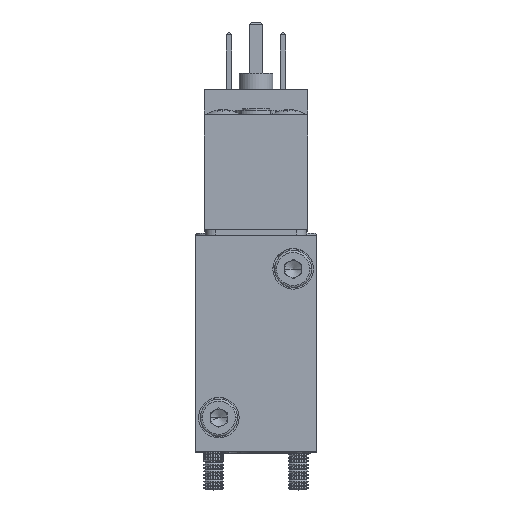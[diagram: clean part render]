
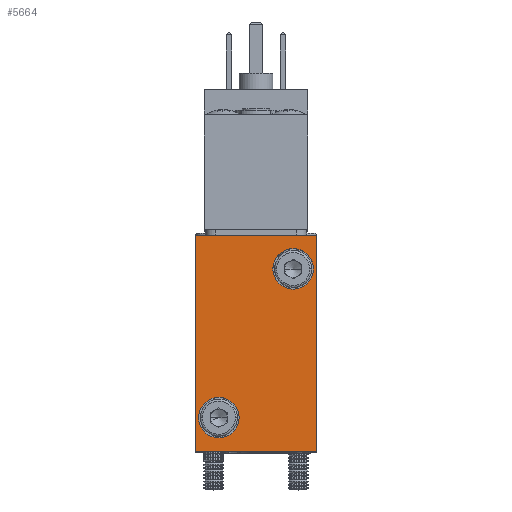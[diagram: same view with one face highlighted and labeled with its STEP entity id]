
A CAD part, top view. The second image highlights one B-rep face of the part: STEP entity #5664.
In plain terms, the highlighted planar face has unit normal (0, 0, 1).
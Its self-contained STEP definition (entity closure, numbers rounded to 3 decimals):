
#907 = VERTEX_POINT ( 'NONE', #43242 ) ;
#999 = CARTESIAN_POINT ( 'NONE',  ( 8.5, 11., 85.4 ) ) ;
#1991 = ORIENTED_EDGE ( 'NONE', *, *, #79749, .T. ) ;
#3596 = DIRECTION ( 'NONE',  ( 1., 0., 0. ) ) ;
#5664 = ADVANCED_FACE ( 'NONE', ( #28457, #83351, #45257 ), #61441, .T. ) ;
#6359 = ORIENTED_EDGE ( 'NONE', *, *, #10594, .T. ) ;
#6927 = VECTOR ( 'NONE', #76603, 1000. ) ;
#8286 = CARTESIAN_POINT ( 'NONE',  ( -8.5, -11., 85.4 ) ) ;
#8307 = AXIS2_PLACEMENT_3D ( 'NONE', #18866, #68922, #26047 ) ;
#10594 = EDGE_CURVE ( 'NONE', #907, #73507, #32351, .T. ) ;
#10795 = EDGE_CURVE ( 'NONE', #22054, #87004, #55800, .T. ) ;
#10846 = AXIS2_PLACEMENT_3D ( 'NONE', #83096, #40238, #90209 ) ;
#16073 = CARTESIAN_POINT ( 'NONE',  ( 9., -16., 85.4 ) ) ;
#17690 = LINE ( 'NONE', #34900, #53532 ) ;
#18866 = CARTESIAN_POINT ( 'NONE',  ( 9., -16., 85.4 ) ) ;
#21314 = EDGE_CURVE ( 'NONE', #37591, #82695, #84895, .T. ) ;
#22054 = VERTEX_POINT ( 'NONE', #69777 ) ;
#23270 = DIRECTION ( 'NONE',  ( 0., 1., 0. ) ) ;
#26047 = DIRECTION ( 'NONE',  ( 1., 0., 0. ) ) ;
#26780 = EDGE_CURVE ( 'NONE', #82695, #37591, #69921, .T. ) ;
#28457 = FACE_OUTER_BOUND ( 'NONE', #56648, .T. ) ;
#29536 = AXIS2_PLACEMENT_3D ( 'NONE', #42046, #92026, #49270 ) ;
#30445 = DIRECTION ( 'NONE',  ( 0., 0., -1. ) ) ;
#31699 = CARTESIAN_POINT ( 'NONE',  ( -2.5, -11., 85.4 ) ) ;
#32351 = LINE ( 'NONE', #16073, #87168 ) ;
#33213 = LINE ( 'NONE', #75501, #88025 ) ;
#33435 = EDGE_LOOP ( 'NONE', ( #69661, #46058 ) ) ;
#34900 = CARTESIAN_POINT ( 'NONE',  ( -9., -16., 85.4 ) ) ;
#37591 = VERTEX_POINT ( 'NONE', #8286 ) ;
#38162 = ORIENTED_EDGE ( 'NONE', *, *, #48715, .T. ) ;
#39697 = AXIS2_PLACEMENT_3D ( 'NONE', #73262, #30445, #80523 ) ;
#40180 = VERTEX_POINT ( 'NONE', #76435 ) ;
#40238 = DIRECTION ( 'NONE',  ( 0., 0., -1. ) ) ;
#40778 = DIRECTION ( 'NONE',  ( 0., 0., -1. ) ) ;
#42046 = CARTESIAN_POINT ( 'NONE',  ( -5.5, -11., 85.4 ) ) ;
#42091 = DIRECTION ( 'NONE',  ( 0., -1., 0. ) ) ;
#43242 = CARTESIAN_POINT ( 'NONE',  ( 9., -16., 85.4 ) ) ;
#45183 = CIRCLE ( 'NONE', #10846, 3. ) ;
#45257 = FACE_BOUND ( 'NONE', #33435, .T. ) ;
#46058 = ORIENTED_EDGE ( 'NONE', *, *, #21314, .T. ) ;
#48461 = ORIENTED_EDGE ( 'NONE', *, *, #90292, .T. ) ;
#48715 = EDGE_CURVE ( 'NONE', #87004, #22054, #45183, .T. ) ;
#49270 = DIRECTION ( 'NONE',  ( 1., 0., 0. ) ) ;
#50888 = CARTESIAN_POINT ( 'NONE',  ( -9., 16., 85.4 ) ) ;
#53532 = VECTOR ( 'NONE', #42091, 1000. ) ;
#55800 = CIRCLE ( 'NONE', #79032, 3. ) ;
#56648 = EDGE_LOOP ( 'NONE', ( #48461, #1991, #65585, #6359 ) ) ;
#56733 = VERTEX_POINT ( 'NONE', #50888 ) ;
#61441 = PLANE ( 'NONE',  #8307 ) ;
#64714 = ORIENTED_EDGE ( 'NONE', *, *, #10795, .T. ) ;
#65275 = CARTESIAN_POINT ( 'NONE',  ( 9., 16., 85.4 ) ) ;
#65585 = ORIENTED_EDGE ( 'NONE', *, *, #80044, .T. ) ;
#68922 = DIRECTION ( 'NONE',  ( 0., 0., 1. ) ) ;
#69298 = EDGE_LOOP ( 'NONE', ( #38162, #64714 ) ) ;
#69374 = CARTESIAN_POINT ( 'NONE',  ( 9., 16., 85.4 ) ) ;
#69661 = ORIENTED_EDGE ( 'NONE', *, *, #26780, .T. ) ;
#69777 = CARTESIAN_POINT ( 'NONE',  ( 2.5, 11., 85.4 ) ) ;
#69921 = CIRCLE ( 'NONE', #29536, 3. ) ;
#70688 = LINE ( 'NONE', #69374, #6927 ) ;
#73262 = CARTESIAN_POINT ( 'NONE',  ( -5.5, -11., 85.4 ) ) ;
#73507 = VERTEX_POINT ( 'NONE', #65275 ) ;
#75501 = CARTESIAN_POINT ( 'NONE',  ( -9., -16., 85.4 ) ) ;
#76435 = CARTESIAN_POINT ( 'NONE',  ( -9., -16., 85.4 ) ) ;
#76603 = DIRECTION ( 'NONE',  ( -1., 0., 0. ) ) ;
#79032 = AXIS2_PLACEMENT_3D ( 'NONE', #83626, #40778, #90742 ) ;
#79749 = EDGE_CURVE ( 'NONE', #56733, #40180, #17690, .T. ) ;
#80044 = EDGE_CURVE ( 'NONE', #40180, #907, #33213, .T. ) ;
#80523 = DIRECTION ( 'NONE',  ( 1., 0., 0. ) ) ;
#82695 = VERTEX_POINT ( 'NONE', #31699 ) ;
#83096 = CARTESIAN_POINT ( 'NONE',  ( 5.5, 11., 85.4 ) ) ;
#83351 = FACE_BOUND ( 'NONE', #69298, .T. ) ;
#83626 = CARTESIAN_POINT ( 'NONE',  ( 5.5, 11., 85.4 ) ) ;
#84895 = CIRCLE ( 'NONE', #39697, 3. ) ;
#87004 = VERTEX_POINT ( 'NONE', #999 ) ;
#87168 = VECTOR ( 'NONE', #23270, 1000. ) ;
#88025 = VECTOR ( 'NONE', #3596, 1000. ) ;
#90209 = DIRECTION ( 'NONE',  ( 1., 0., 0. ) ) ;
#90292 = EDGE_CURVE ( 'NONE', #73507, #56733, #70688, .T. ) ;
#90742 = DIRECTION ( 'NONE',  ( 1., 0., 0. ) ) ;
#92026 = DIRECTION ( 'NONE',  ( 0., 0., -1. ) ) ;
